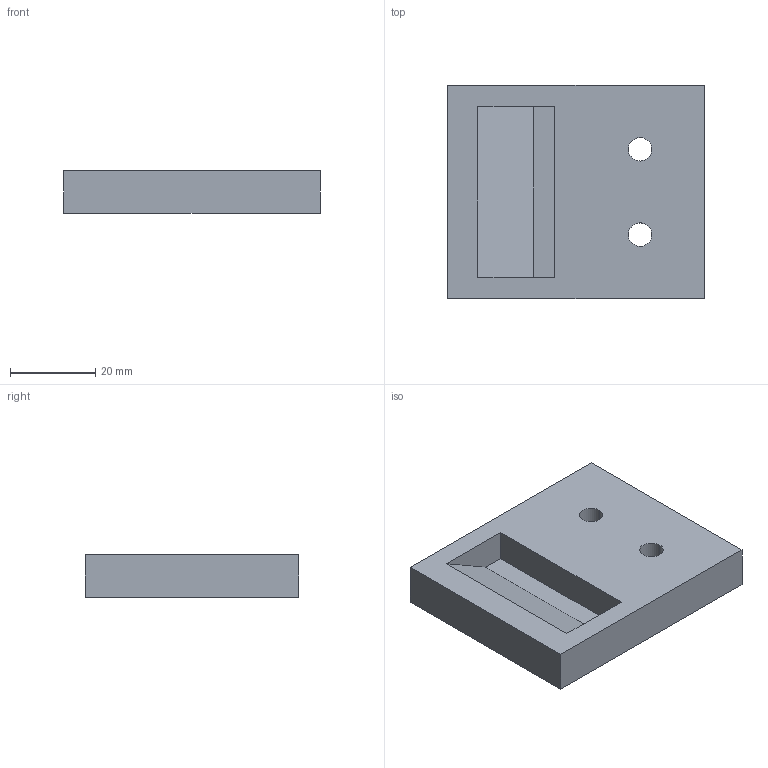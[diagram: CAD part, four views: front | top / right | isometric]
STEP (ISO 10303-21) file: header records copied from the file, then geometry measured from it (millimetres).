
FILE_DESCRIPTION (( 'STEP AP214' ), '1' );
FILE_NAME ('賑雄菁釱-03.STEP', '2021-03-31T14:34:52', ( 'hp' ), ( '' ), 'SwSTEP 2.0', 'SolidWorks 2017', '' );
FILE_SCHEMA (( 'AUTOMOTIVE_DESIGN' ));
Length unit declared in the file: millimetre
Products named in the file (1): 賑雄菁釱-03
Bounding box: 60 x 50 x 10 mm (x, y, z)
Volume: 25181.4 mm3; surface area: 9207.6 mm2
Topology: 1 solids, 1 shells, 21 faces, 48 edges, 32 vertices
Faces by surface type: plane 13, cylinder 8
Entity records: 640 total; most frequent: DIRECTION 108, CARTESIAN_POINT 102, ORIENTED_EDGE 96, EDGE_CURVE 48, AXIS2_PLACEMENT_3D 38, VECTOR 32, LINE 32, VERTEX_POINT 32
